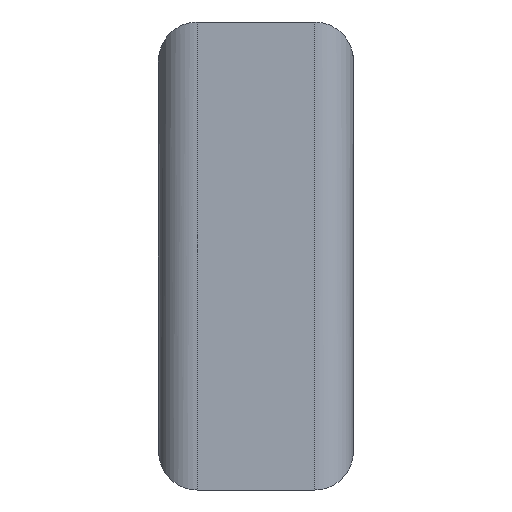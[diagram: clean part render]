
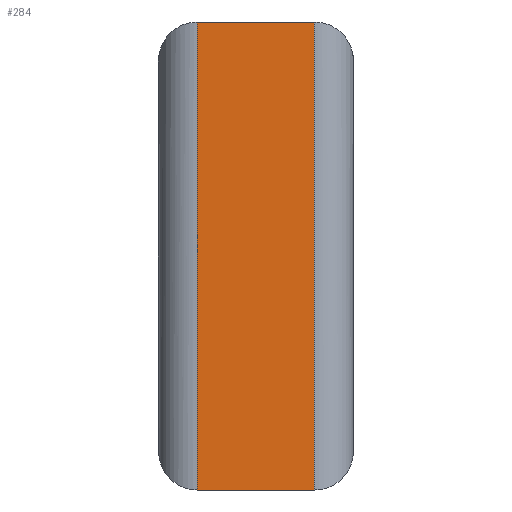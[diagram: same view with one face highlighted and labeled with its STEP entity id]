
A CAD part, left-side view. The second image highlights one B-rep face of the part: STEP entity #284.
In plain terms, the highlighted planar face has unit normal (-1, 0, 0).
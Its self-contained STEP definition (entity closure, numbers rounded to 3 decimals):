
#21 = CARTESIAN_POINT ( 'NONE',  ( -28.5, -1.5, 6. ) ) ;
#74 = VECTOR ( 'NONE', #184, 1000. ) ;
#78 = DIRECTION ( 'NONE',  ( 0., -1., 0. ) ) ;
#123 = LINE ( 'NONE', #570, #1350 ) ;
#184 = DIRECTION ( 'NONE',  ( 0., 0., -1. ) ) ;
#187 = CARTESIAN_POINT ( 'NONE',  ( -28.5, 1.5, -6. ) ) ;
#191 = LINE ( 'NONE', #855, #74 ) ;
#284 = ADVANCED_FACE ( 'NONE', ( #731 ), #1196, .F. ) ;
#301 = AXIS2_PLACEMENT_3D ( 'NONE', #371, #609, #1164 ) ;
#366 = VERTEX_POINT ( 'NONE', #1173 ) ;
#371 = CARTESIAN_POINT ( 'NONE',  ( -28.5, 2.5, 6. ) ) ;
#497 = EDGE_CURVE ( 'NONE', #366, #1091, #191, .T. ) ;
#532 = EDGE_LOOP ( 'NONE', ( #713, #1231, #1327, #1356 ) ) ;
#570 = CARTESIAN_POINT ( 'NONE',  ( -28.5, 2.5, -6. ) ) ;
#574 = VERTEX_POINT ( 'NONE', #21 ) ;
#589 = EDGE_CURVE ( 'NONE', #1091, #921, #123, .T. ) ;
#609 = DIRECTION ( 'NONE',  ( 1., 0., 0. ) ) ;
#694 = LINE ( 'NONE', #1369, #1010 ) ;
#713 = ORIENTED_EDGE ( 'NONE', *, *, #589, .T. ) ;
#731 = FACE_OUTER_BOUND ( 'NONE', #532, .T. ) ;
#777 = LINE ( 'NONE', #1466, #1266 ) ;
#798 = DIRECTION ( 'NONE',  ( 0., 0., 1. ) ) ;
#855 = CARTESIAN_POINT ( 'NONE',  ( -28.5, 1.5, 6. ) ) ;
#921 = VERTEX_POINT ( 'NONE', #1100 ) ;
#1010 = VECTOR ( 'NONE', #798, 1000. ) ;
#1091 = VERTEX_POINT ( 'NONE', #187 ) ;
#1100 = CARTESIAN_POINT ( 'NONE',  ( -28.5, -1.5, -6. ) ) ;
#1164 = DIRECTION ( 'NONE',  ( 0., 0., -1. ) ) ;
#1173 = CARTESIAN_POINT ( 'NONE',  ( -28.5, 1.5, 6. ) ) ;
#1196 = PLANE ( 'NONE',  #301 ) ;
#1218 = EDGE_CURVE ( 'NONE', #366, #574, #777, .T. ) ;
#1231 = ORIENTED_EDGE ( 'NONE', *, *, #1433, .T. ) ;
#1250 = DIRECTION ( 'NONE',  ( 0., -1., 0. ) ) ;
#1266 = VECTOR ( 'NONE', #78, 1000. ) ;
#1327 = ORIENTED_EDGE ( 'NONE', *, *, #1218, .F. ) ;
#1350 = VECTOR ( 'NONE', #1250, 1000. ) ;
#1356 = ORIENTED_EDGE ( 'NONE', *, *, #497, .T. ) ;
#1369 = CARTESIAN_POINT ( 'NONE',  ( -28.5, -1.5, 6. ) ) ;
#1433 = EDGE_CURVE ( 'NONE', #921, #574, #694, .T. ) ;
#1466 = CARTESIAN_POINT ( 'NONE',  ( -28.5, 2.5, 6. ) ) ;
